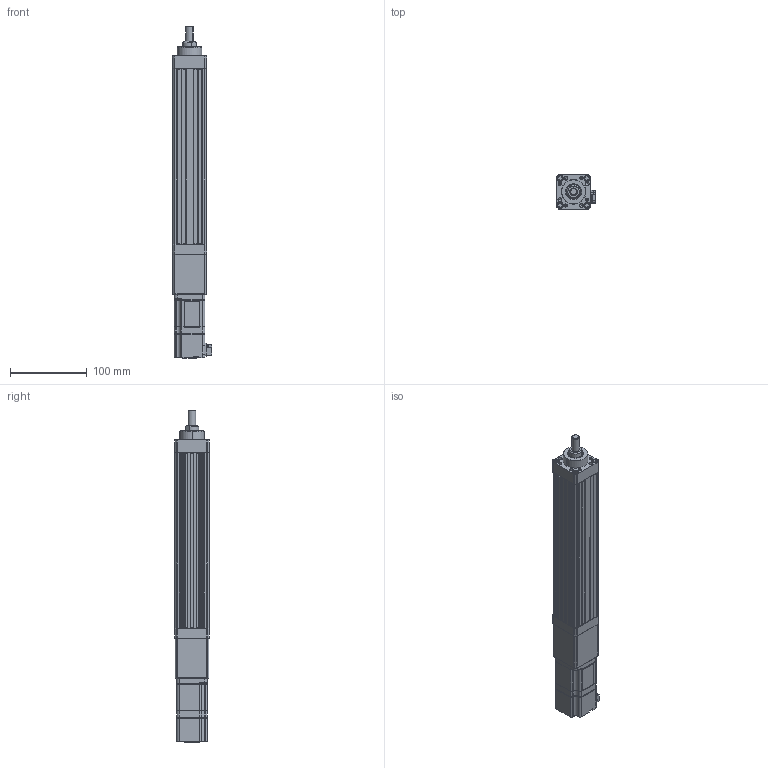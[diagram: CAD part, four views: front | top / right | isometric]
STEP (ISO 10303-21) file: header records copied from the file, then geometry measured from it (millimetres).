
FILE_DESCRIPTION (( 'STEP AP203' ), '1' );
FILE_NAME ('ANS045-S150-05(10)-W10-M.STEP', '2019-02-14T02:52:35', ( 'user' ), ( '' ), 'SwSTEP 2.0', 'SolidWorks 2013', '' );
FILE_SCHEMA (( 'CONFIG_CONTROL_DESIGN' ));
Length unit declared in the file: millimetre
Products named in the file (4): ANS045 S150 VER2; ANS045 ROD ST150 M; SGMJV_01A_A21; ANS045-S150-05(10)-W10-M
Assembly tree (3 placements, depth 2):
  ANS045-S150-05(10)-W10-M
    ANS045 S150 VER2
    ANS045 ROD ST150 M
    SGMJV_01A_A21
Bounding box: 51.3 x 45 x 432.1 mm (x, y, z)
Volume: 546264.5 mm3; surface area: 158031.3 mm2
Topology: 3 solids, 7 shells, 895 faces, 2251 edges, 1404 vertices
Faces by surface type: plane 480, cylinder 305, cone 108, bspline 2
Entity records: 26713 total; most frequent: CARTESIAN_POINT 5040, ORIENTED_EDGE 4438, DIRECTION 4413, EDGE_CURVE 2219, LINE 1507, VECTOR 1507, AXIS2_PLACEMENT_3D 1453, VERTEX_POINT 1404
